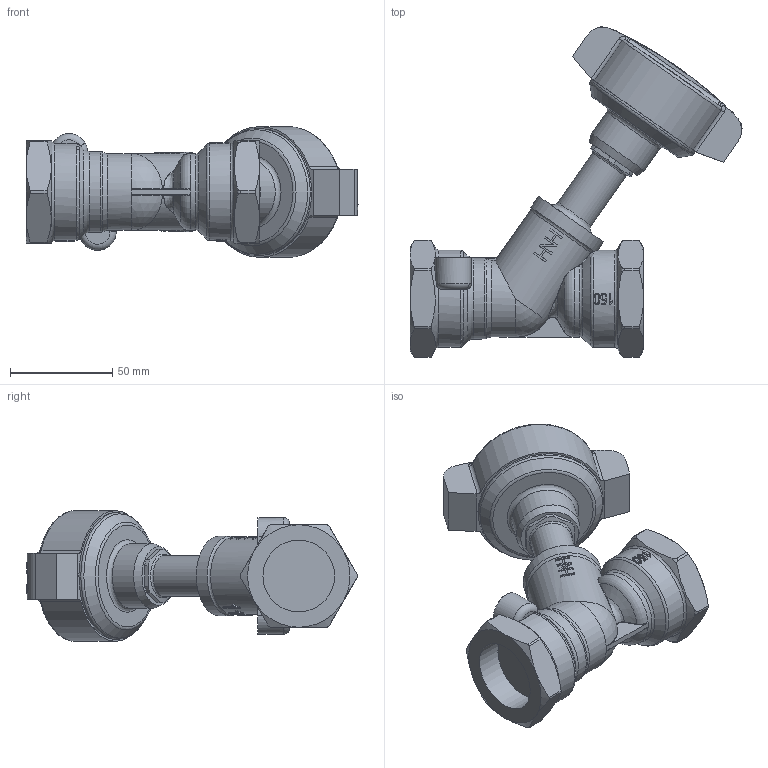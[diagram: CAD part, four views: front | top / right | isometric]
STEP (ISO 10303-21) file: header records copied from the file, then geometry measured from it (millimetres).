
FILE_DESCRIPTION((''),'2;1');
FILE_NAME('P:\Fastrack\53972_CRANE 3D\Workspace\HATTERSLEY\Fig-1432_1 1-4in\Fig-1432_1 1-4in.stp','2011-03-07T14:45:47',('btaylor'),(''),'Autodesk Inventor 2008','Autodesk Inventor 2008','');
FILE_SCHEMA(('AUTOMOTIVE_DESIGN { 1 0 10303 214 1 1 1 1 }'));
Length unit declared in the file: millimetre
Products named in the file (1): Fig-1432_1 1-4in
Bounding box: 162.12 x 161.37 x 63.85 mm (x, y, z)
Volume: 323142.4 mm3; surface area: 46453.8 mm2
Topology: 1 solids, 1 shells, 685 faces, 1785 edges, 1151 vertices
Faces by surface type: plane 308, bspline 235, cylinder 98, torus 21, cone 21, sphere 2
Full cylindrical faces by diameter (mm): 20 x1, 31.5 x1, 38.8 x1, 47.4 x1, 61.958 x1
Entity records: 63680 total; most frequent: CARTESIAN_POINT 47962, ORIENTED_EDGE 3518, DIRECTION 2355, EDGE_CURVE 1759, VERTEX_POINT 1146, VECTOR 817, LINE 817, AXIS2_PLACEMENT_3D 769
